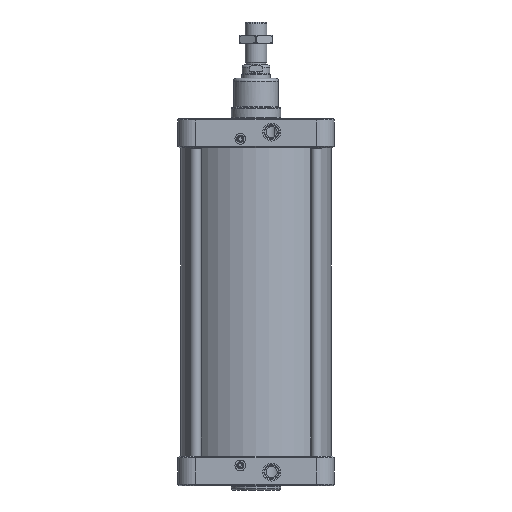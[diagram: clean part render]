
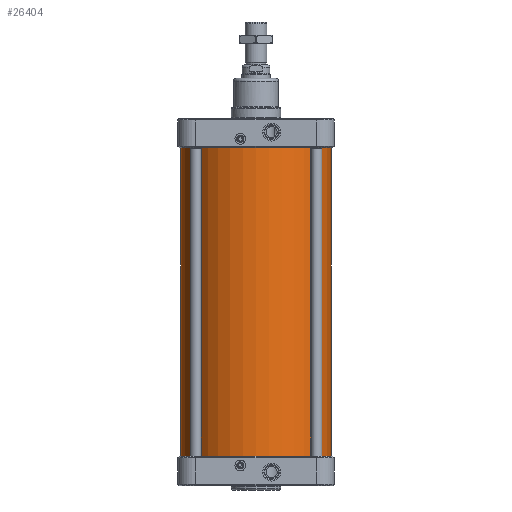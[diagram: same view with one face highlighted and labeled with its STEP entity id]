
A CAD part, front view. The second image highlights one B-rep face of the part: STEP entity #26404.
In plain terms, the highlighted cylindrical face has radius 168 mm (diameter 336 mm), a full revolution.
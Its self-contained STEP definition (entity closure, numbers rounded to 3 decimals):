
#2804=CIRCLE('',#29645,168.);
#2805=CIRCLE('',#29647,168.);
#3478=FACE_BOUND('',#7098,.T.);
#5147=FACE_OUTER_BOUND('',#7097,.T.);
#7097=EDGE_LOOP('',(#22547));
#7098=EDGE_LOOP('',(#22548));
#11979=VERTEX_POINT('',#64759);
#11980=VERTEX_POINT('',#64762);
#15511=EDGE_CURVE('',#11979,#11979,#2804,.T.);
#15512=EDGE_CURVE('',#11980,#11980,#2805,.T.);
#22547=ORIENTED_EDGE('',*,*,#15511,.T.);
#22548=ORIENTED_EDGE('',*,*,#15512,.T.);
#23070=CYLINDRICAL_SURFACE('',#29646,168.);
#26404=ADVANCED_FACE('',(#5147,#3478),#23070,.T.);
#29645=AXIS2_PLACEMENT_3D('',#64760,#36878,#36879);
#29646=AXIS2_PLACEMENT_3D('',#64761,#36880,#36881);
#29647=AXIS2_PLACEMENT_3D('',#64763,#36882,#36883);
#36878=DIRECTION('center_axis',(0.,0.,1.));
#36879=DIRECTION('ref_axis',(-1.,0.,0.));
#36880=DIRECTION('center_axis',(0.,0.,1.));
#36881=DIRECTION('ref_axis',(-1.,0.,0.));
#36882=DIRECTION('center_axis',(0.,0.,-1.));
#36883=DIRECTION('ref_axis',(-1.,0.,0.));
#64759=CARTESIAN_POINT('',(168.,0.,-345.));
#64760=CARTESIAN_POINT('Origin',(0.,0.,-345.));
#64761=CARTESIAN_POINT('Origin',(0.,0.,0.));
#64762=CARTESIAN_POINT('',(168.,0.,345.));
#64763=CARTESIAN_POINT('Origin',(0.,0.,345.));
